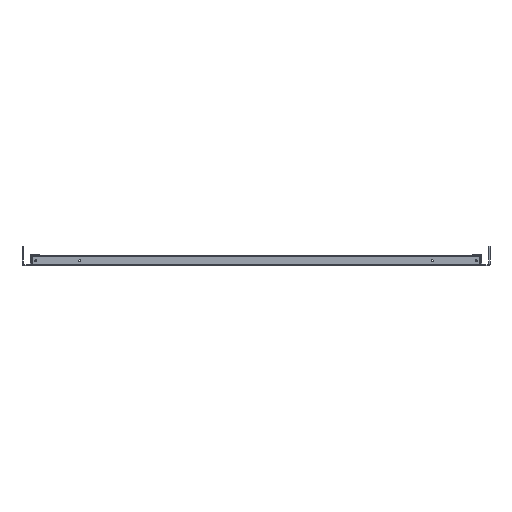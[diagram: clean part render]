
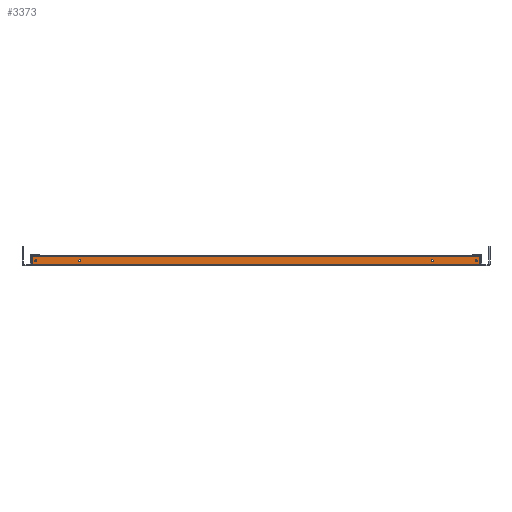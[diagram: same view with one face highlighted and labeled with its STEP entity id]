
A CAD part, front view. The second image highlights one B-rep face of the part: STEP entity #3373.
In plain terms, the highlighted planar face has unit normal (0, -1, 0).
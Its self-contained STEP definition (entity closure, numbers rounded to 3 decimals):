
#223 = DIRECTION ( 'NONE',  ( -1., 0., 0. ) ) ;
#241 = CARTESIAN_POINT ( 'NONE',  ( -416.5, -425., 10. ) ) ;
#268 = CARTESIAN_POINT ( 'NONE',  ( -423., -425., 20. ) ) ;
#358 = DIRECTION ( 'NONE',  ( 0., 1., 0. ) ) ;
#395 = CARTESIAN_POINT ( 'NONE',  ( -416.5, -425., 10. ) ) ;
#426 = CARTESIAN_POINT ( 'NONE',  ( -414.7, -425., 10. ) ) ;
#513 = VERTEX_POINT ( 'NONE', #12709 ) ;
#691 = AXIS2_PLACEMENT_3D ( 'NONE', #395, #2194, #12036 ) ;
#706 = AXIS2_PLACEMENT_3D ( 'NONE', #5812, #4006, #3146 ) ;
#823 = ORIENTED_EDGE ( 'NONE', *, *, #2795, .T. ) ;
#868 = VERTEX_POINT ( 'NONE', #12220 ) ;
#961 = CARTESIAN_POINT ( 'NONE',  ( 414.7, -425., 10. ) ) ;
#1442 = CIRCLE ( 'NONE', #691, 1.8 ) ;
#1510 = CARTESIAN_POINT ( 'NONE',  ( 333.5, -425., 10. ) ) ;
#1638 = FACE_OUTER_BOUND ( 'NONE', #3087, .T. ) ;
#1791 = DIRECTION ( 'NONE',  ( 0., 1., 0. ) ) ;
#1990 = CARTESIAN_POINT ( 'NONE',  ( 333.5, -425., 10. ) ) ;
#2147 = VECTOR ( 'NONE', #9115, 1000. ) ;
#2194 = DIRECTION ( 'NONE',  ( 0., 1., 0. ) ) ;
#2578 = VERTEX_POINT ( 'NONE', #9878 ) ;
#2628 = CARTESIAN_POINT ( 'NONE',  ( 423., -425., 2. ) ) ;
#2795 = EDGE_CURVE ( 'NONE', #4612, #9016, #7297, .T. ) ;
#2993 = ORIENTED_EDGE ( 'NONE', *, *, #9742, .T. ) ;
#2994 = ORIENTED_EDGE ( 'NONE', *, *, #7550, .T. ) ;
#3013 = AXIS2_PLACEMENT_3D ( 'NONE', #9483, #7661, #11522 ) ;
#3087 = EDGE_LOOP ( 'NONE', ( #2994, #9491, #823, #2993 ) ) ;
#3146 = DIRECTION ( 'NONE',  ( -1., 0., 0. ) ) ;
#3256 = ORIENTED_EDGE ( 'NONE', *, *, #5838, .T. ) ;
#3347 = AXIS2_PLACEMENT_3D ( 'NONE', #12147, #12107, #3403 ) ;
#3373 = ADVANCED_FACE ( 'NONE', ( #6806, #10974, #11581, #6966, #1638 ), #8154, .F. ) ;
#3403 = DIRECTION ( 'NONE',  ( -1., 0., 0. ) ) ;
#3952 = EDGE_LOOP ( 'NONE', ( #8006, #9637 ) ) ;
#4006 = DIRECTION ( 'NONE',  ( 0., 1., 0. ) ) ;
#4293 = CIRCLE ( 'NONE', #6985, 1.8 ) ;
#4398 = ORIENTED_EDGE ( 'NONE', *, *, #8145, .T. ) ;
#4435 = DIRECTION ( 'NONE',  ( 0., 0., -1. ) ) ;
#4523 = AXIS2_PLACEMENT_3D ( 'NONE', #6592, #1791, #12529 ) ;
#4612 = VERTEX_POINT ( 'NONE', #9285 ) ;
#4669 = CARTESIAN_POINT ( 'NONE',  ( -335.3, -425., 10. ) ) ;
#5142 = EDGE_CURVE ( 'NONE', #5721, #8559, #1442, .T. ) ;
#5443 = EDGE_CURVE ( 'NONE', #513, #10021, #10159, .T. ) ;
#5524 = DIRECTION ( 'NONE',  ( -1., 0., 0. ) ) ;
#5721 = VERTEX_POINT ( 'NONE', #426 ) ;
#5812 = CARTESIAN_POINT ( 'NONE',  ( 416.5, -425., 10. ) ) ;
#5838 = EDGE_CURVE ( 'NONE', #10021, #513, #4293, .T. ) ;
#5985 = EDGE_LOOP ( 'NONE', ( #11097, #4398 ) ) ;
#6130 = CARTESIAN_POINT ( 'NONE',  ( 423., -425., 20. ) ) ;
#6173 = ORIENTED_EDGE ( 'NONE', *, *, #8451, .T. ) ;
#6456 = EDGE_CURVE ( 'NONE', #9089, #11068, #11647, .T. ) ;
#6592 = CARTESIAN_POINT ( 'NONE',  ( -333.5, -425., 10. ) ) ;
#6611 = VECTOR ( 'NONE', #9040, 1000. ) ;
#6806 = FACE_BOUND ( 'NONE', #9840, .T. ) ;
#6892 = CIRCLE ( 'NONE', #3013, 1.8 ) ;
#6966 = FACE_BOUND ( 'NONE', #5985, .T. ) ;
#6985 = AXIS2_PLACEMENT_3D ( 'NONE', #1510, #9472, #5524 ) ;
#7009 = CARTESIAN_POINT ( 'NONE',  ( 416.5, -425., 10. ) ) ;
#7067 = DIRECTION ( 'NONE',  ( -1., 0., 0. ) ) ;
#7280 = AXIS2_PLACEMENT_3D ( 'NONE', #241, #358, #7067 ) ;
#7297 = LINE ( 'NONE', #268, #11449 ) ;
#7546 = EDGE_LOOP ( 'NONE', ( #11439, #3256 ) ) ;
#7550 = EDGE_CURVE ( 'NONE', #10133, #868, #10896, .T. ) ;
#7661 = DIRECTION ( 'NONE',  ( 0., 1., 0. ) ) ;
#7924 = CARTESIAN_POINT ( 'NONE',  ( -425., -425., 18. ) ) ;
#8006 = ORIENTED_EDGE ( 'NONE', *, *, #9870, .T. ) ;
#8145 = EDGE_CURVE ( 'NONE', #2578, #10724, #10259, .T. ) ;
#8154 = PLANE ( 'NONE',  #3347 ) ;
#8176 = EDGE_CURVE ( 'NONE', #868, #4612, #11172, .T. ) ;
#8299 = CIRCLE ( 'NONE', #7280, 1.8 ) ;
#8384 = CARTESIAN_POINT ( 'NONE',  ( -423., -425., 2. ) ) ;
#8418 = CARTESIAN_POINT ( 'NONE',  ( 335.3, -425., 10. ) ) ;
#8451 = EDGE_CURVE ( 'NONE', #11068, #9089, #6892, .T. ) ;
#8559 = VERTEX_POINT ( 'NONE', #11685 ) ;
#8643 = AXIS2_PLACEMENT_3D ( 'NONE', #1990, #9701, #9659 ) ;
#8730 = VECTOR ( 'NONE', #11954, 1000. ) ;
#8996 = CARTESIAN_POINT ( 'NONE',  ( 425., -425., 2. ) ) ;
#9016 = VERTEX_POINT ( 'NONE', #8384 ) ;
#9040 = DIRECTION ( 'NONE',  ( 1., 0., 0. ) ) ;
#9089 = VERTEX_POINT ( 'NONE', #4669 ) ;
#9115 = DIRECTION ( 'NONE',  ( 0., 0., 1. ) ) ;
#9285 = CARTESIAN_POINT ( 'NONE',  ( -423., -425., 18. ) ) ;
#9472 = DIRECTION ( 'NONE',  ( 0., 1., 0. ) ) ;
#9483 = CARTESIAN_POINT ( 'NONE',  ( -333.5, -425., 10. ) ) ;
#9491 = ORIENTED_EDGE ( 'NONE', *, *, #8176, .T. ) ;
#9637 = ORIENTED_EDGE ( 'NONE', *, *, #5142, .T. ) ;
#9659 = DIRECTION ( 'NONE',  ( -1., 0., 0. ) ) ;
#9701 = DIRECTION ( 'NONE',  ( 0., 1., 0. ) ) ;
#9742 = EDGE_CURVE ( 'NONE', #9016, #10133, #11383, .T. ) ;
#9840 = EDGE_LOOP ( 'NONE', ( #11396, #6173 ) ) ;
#9870 = EDGE_CURVE ( 'NONE', #8559, #5721, #8299, .T. ) ;
#9878 = CARTESIAN_POINT ( 'NONE',  ( 418.3, -425., 10. ) ) ;
#10021 = VERTEX_POINT ( 'NONE', #8418 ) ;
#10133 = VERTEX_POINT ( 'NONE', #2628 ) ;
#10159 = CIRCLE ( 'NONE', #8643, 1.8 ) ;
#10259 = CIRCLE ( 'NONE', #11799, 1.8 ) ;
#10724 = VERTEX_POINT ( 'NONE', #961 ) ;
#10855 = DIRECTION ( 'NONE',  ( 0., 1., 0. ) ) ;
#10896 = LINE ( 'NONE', #6130, #2147 ) ;
#10974 = FACE_BOUND ( 'NONE', #3952, .T. ) ;
#11068 = VERTEX_POINT ( 'NONE', #12280 ) ;
#11097 = ORIENTED_EDGE ( 'NONE', *, *, #12317, .T. ) ;
#11172 = LINE ( 'NONE', #7924, #8730 ) ;
#11383 = LINE ( 'NONE', #8996, #6611 ) ;
#11396 = ORIENTED_EDGE ( 'NONE', *, *, #6456, .T. ) ;
#11439 = ORIENTED_EDGE ( 'NONE', *, *, #5443, .T. ) ;
#11449 = VECTOR ( 'NONE', #4435, 1000. ) ;
#11522 = DIRECTION ( 'NONE',  ( -1., 0., 0. ) ) ;
#11581 = FACE_BOUND ( 'NONE', #7546, .T. ) ;
#11647 = CIRCLE ( 'NONE', #4523, 1.8 ) ;
#11685 = CARTESIAN_POINT ( 'NONE',  ( -418.3, -425., 10. ) ) ;
#11799 = AXIS2_PLACEMENT_3D ( 'NONE', #7009, #10855, #223 ) ;
#11954 = DIRECTION ( 'NONE',  ( -1., 0., 0. ) ) ;
#12036 = DIRECTION ( 'NONE',  ( -1., 0., 0. ) ) ;
#12107 = DIRECTION ( 'NONE',  ( 0., 1., 0. ) ) ;
#12147 = CARTESIAN_POINT ( 'NONE',  ( 425., -425., 20. ) ) ;
#12220 = CARTESIAN_POINT ( 'NONE',  ( 423., -425., 18. ) ) ;
#12280 = CARTESIAN_POINT ( 'NONE',  ( -331.7, -425., 10. ) ) ;
#12317 = EDGE_CURVE ( 'NONE', #10724, #2578, #12689, .T. ) ;
#12529 = DIRECTION ( 'NONE',  ( -1., 0., 0. ) ) ;
#12689 = CIRCLE ( 'NONE', #706, 1.8 ) ;
#12709 = CARTESIAN_POINT ( 'NONE',  ( 331.7, -425., 10. ) ) ;
